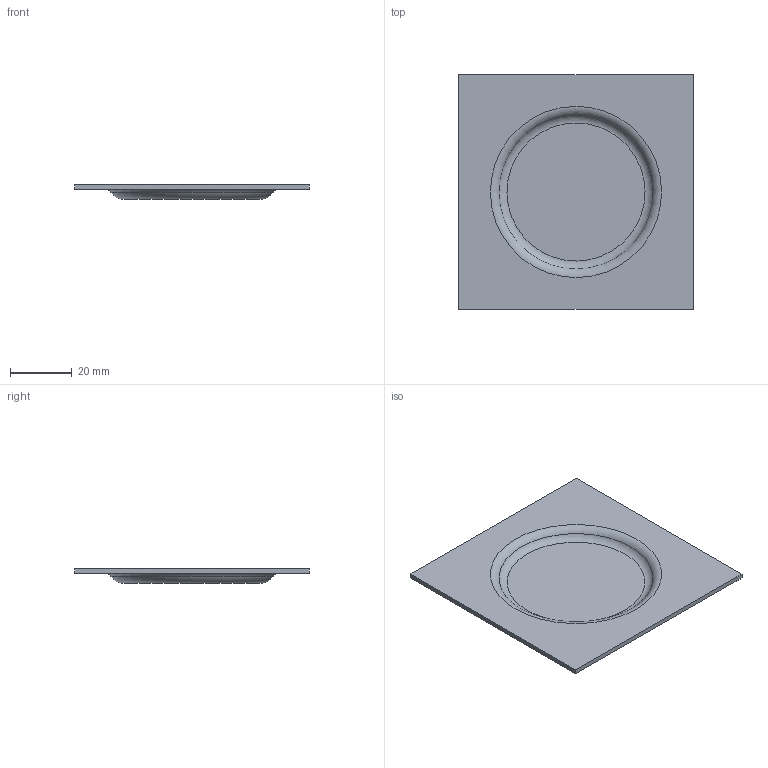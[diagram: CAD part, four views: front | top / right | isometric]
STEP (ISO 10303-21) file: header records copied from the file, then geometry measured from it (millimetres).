
FILE_DESCRIPTION((''),'1');
FILE_NAME('C:/Users/robertnolte/Desktop/WT#724890-10.stp','2012-03-30T00:38:43',(''),(''),'Spatial Interop R21 SP3','Kubotek KeyCreator 2011 V10.5.0 (24766)',' ');
FILE_SCHEMA(('CONFIG_CONTROL_DESIGN'));
Length unit declared in the file: inch
Products named in the file (1): 1
Bounding box: 76.2 x 76.2 x 4.7 mm (x, y, z)
Volume: 9134.1 mm3; surface area: 12451.5 mm2
Topology: 1 solids, 1 shells, 12 faces, 24 edges, 16 vertices
Faces by surface type: plane 8, torus 4
Entity records: 320 total; most frequent: DIRECTION 50, CARTESIAN_POINT 45, ORIENTED_EDGE 36, AXIS2_PLACEMENT_3D 19, EDGE_LOOP 18, EDGE_CURVE 18, VERTEX_POINT 14, ADVANCED_FACE 12
